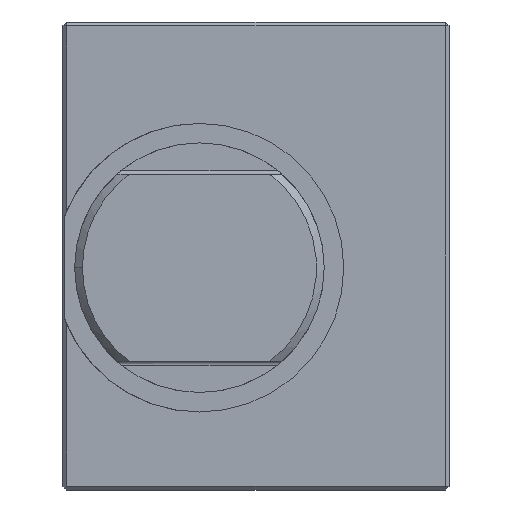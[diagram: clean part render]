
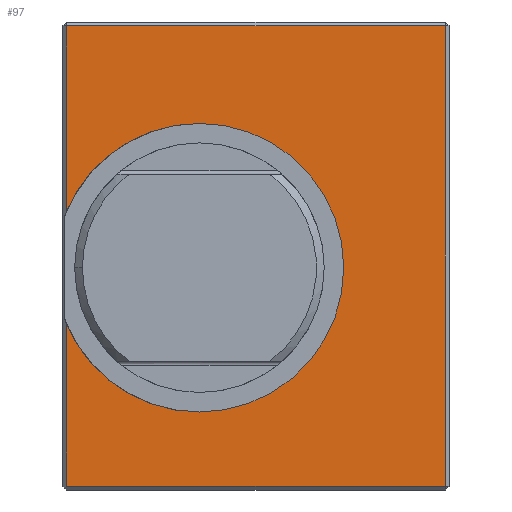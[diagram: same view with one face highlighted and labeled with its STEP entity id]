
A CAD part, left-side view. The second image highlights one B-rep face of the part: STEP entity #97.
In plain terms, the highlighted planar face has unit normal (-1, 0, 0).
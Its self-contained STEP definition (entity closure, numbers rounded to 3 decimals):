
#97 = ADVANCED_FACE ( 'NONE', ( #4745 ), #3082, .T. ) ;
#260 = CARTESIAN_POINT ( 'NONE',  ( 0., 7.25, 17. ) ) ;
#549 = VERTEX_POINT ( 'NONE', #260 ) ;
#671 = DIRECTION ( 'NONE',  ( 1., 0., 0. ) ) ;
#786 = ORIENTED_EDGE ( 'NONE', *, *, #4902, .T. ) ;
#941 = EDGE_LOOP ( 'NONE', ( #5901, #4948, #786, #3884, #4443, #1109, #5513, #1665 ) ) ;
#991 = DIRECTION ( 'NONE',  ( 0., 0., 1. ) ) ;
#1109 = ORIENTED_EDGE ( 'NONE', *, *, #6162, .T. ) ;
#1198 = CIRCLE ( 'NONE', #3917, 18.5 ) ;
#1385 = AXIS2_PLACEMENT_3D ( 'NONE', #4949, #3567, #2608 ) ;
#1403 = VERTEX_POINT ( 'NONE', #4820 ) ;
#1665 = ORIENTED_EDGE ( 'NONE', *, *, #4777, .T. ) ;
#1761 = CIRCLE ( 'NONE', #5410, 18.5 ) ;
#2028 = AXIS2_PLACEMENT_3D ( 'NONE', #3962, #5673, #3809 ) ;
#2175 = VERTEX_POINT ( 'NONE', #2650 ) ;
#2479 = VERTEX_POINT ( 'NONE', #3188 ) ;
#2497 = CARTESIAN_POINT ( 'NONE',  ( 0., 24.75, 29.5 ) ) ;
#2608 = DIRECTION ( 'NONE',  ( 0., 0., 1. ) ) ;
#2650 = CARTESIAN_POINT ( 'NONE',  ( 0., 24.25, -8.797 ) ) ;
#2812 = DIRECTION ( 'NONE',  ( 0., 0., 1. ) ) ;
#2847 = CARTESIAN_POINT ( 'NONE',  ( 0., 24.25, 4.5 ) ) ;
#2848 = VECTOR ( 'NONE', #4280, 1000. ) ;
#2941 = DIRECTION ( 'NONE',  ( 0., 0., 1. ) ) ;
#2974 = LINE ( 'NONE', #2497, #3029 ) ;
#3029 = VECTOR ( 'NONE', #5106, 1000. ) ;
#3042 = VERTEX_POINT ( 'NONE', #4311 ) ;
#3082 = PLANE ( 'NONE',  #1385 ) ;
#3181 = EDGE_CURVE ( 'NONE', #549, #1403, #1198, .T. ) ;
#3188 = CARTESIAN_POINT ( 'NONE',  ( 0., 24.25, 5.797 ) ) ;
#3338 = CARTESIAN_POINT ( 'NONE',  ( 0., -24.25, 30. ) ) ;
#3559 = DIRECTION ( 'NONE',  ( 1., 0., 0. ) ) ;
#3567 = DIRECTION ( 'NONE',  ( -1., 0., 0. ) ) ;
#3741 = DIRECTION ( 'NONE',  ( 0., 0., -1. ) ) ;
#3772 = DIRECTION ( 'NONE',  ( 0., -1., 0. ) ) ;
#3797 = CARTESIAN_POINT ( 'NONE',  ( 0., 24.25, -30. ) ) ;
#3809 = DIRECTION ( 'NONE',  ( 0., 0., 1. ) ) ;
#3824 = VERTEX_POINT ( 'NONE', #4807 ) ;
#3867 = CARTESIAN_POINT ( 'NONE',  ( 0., -24.75, -29.5 ) ) ;
#3884 = ORIENTED_EDGE ( 'NONE', *, *, #4896, .T. ) ;
#3917 = AXIS2_PLACEMENT_3D ( 'NONE', #4283, #671, #2941 ) ;
#3946 = LINE ( 'NONE', #2847, #2848 ) ;
#3962 = CARTESIAN_POINT ( 'NONE',  ( 0., 7.25, -1.5 ) ) ;
#4062 = CARTESIAN_POINT ( 'NONE',  ( 0., 7.25, -1.5 ) ) ;
#4159 = VECTOR ( 'NONE', #3772, 1000. ) ;
#4274 = VECTOR ( 'NONE', #3741, 1000. ) ;
#4280 = DIRECTION ( 'NONE',  ( 0., 0., -1. ) ) ;
#4283 = CARTESIAN_POINT ( 'NONE',  ( 0., 7.25, -1.5 ) ) ;
#4311 = CARTESIAN_POINT ( 'NONE',  ( 0., 24.25, -29.5 ) ) ;
#4443 = ORIENTED_EDGE ( 'NONE', *, *, #4859, .T. ) ;
#4745 = FACE_OUTER_BOUND ( 'NONE', #941, .T. ) ;
#4777 = EDGE_CURVE ( 'NONE', #3824, #2479, #3946, .T. ) ;
#4807 = CARTESIAN_POINT ( 'NONE',  ( 0., 24.25, 29.5 ) ) ;
#4820 = CARTESIAN_POINT ( 'NONE',  ( 0., 7.25, -20. ) ) ;
#4859 = EDGE_CURVE ( 'NONE', #3042, #5477, #5252, .T. ) ;
#4896 = EDGE_CURVE ( 'NONE', #2175, #3042, #5512, .T. ) ;
#4902 = EDGE_CURVE ( 'NONE', #1403, #2175, #1761, .T. ) ;
#4948 = ORIENTED_EDGE ( 'NONE', *, *, #3181, .T. ) ;
#4949 = CARTESIAN_POINT ( 'NONE',  ( 0., 24.75, -30. ) ) ;
#4997 = LINE ( 'NONE', #3338, #5012 ) ;
#5012 = VECTOR ( 'NONE', #991, 1000. ) ;
#5106 = DIRECTION ( 'NONE',  ( 0., 1., 0. ) ) ;
#5132 = CARTESIAN_POINT ( 'NONE',  ( 0., -24.25, 29.5 ) ) ;
#5249 = VERTEX_POINT ( 'NONE', #5132 ) ;
#5252 = LINE ( 'NONE', #3867, #4159 ) ;
#5331 = EDGE_CURVE ( 'NONE', #2479, #549, #5487, .T. ) ;
#5410 = AXIS2_PLACEMENT_3D ( 'NONE', #4062, #3559, #2812 ) ;
#5477 = VERTEX_POINT ( 'NONE', #6020 ) ;
#5487 = CIRCLE ( 'NONE', #2028, 18.5 ) ;
#5512 = LINE ( 'NONE', #3797, #4274 ) ;
#5513 = ORIENTED_EDGE ( 'NONE', *, *, #5725, .T. ) ;
#5673 = DIRECTION ( 'NONE',  ( 1., 0., 0. ) ) ;
#5725 = EDGE_CURVE ( 'NONE', #5249, #3824, #2974, .T. ) ;
#5901 = ORIENTED_EDGE ( 'NONE', *, *, #5331, .T. ) ;
#6020 = CARTESIAN_POINT ( 'NONE',  ( 0., -24.25, -29.5 ) ) ;
#6162 = EDGE_CURVE ( 'NONE', #5477, #5249, #4997, .T. ) ;
